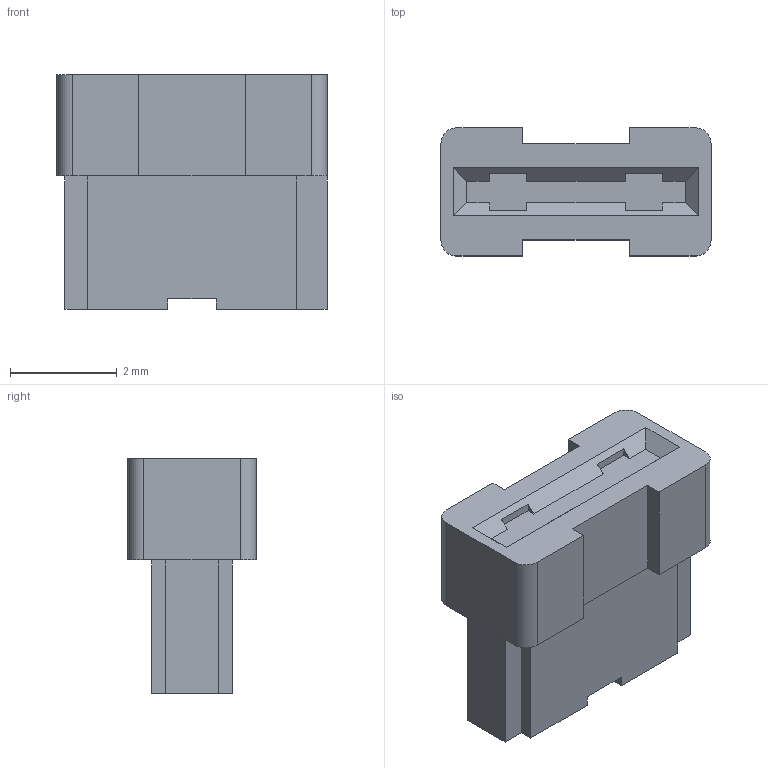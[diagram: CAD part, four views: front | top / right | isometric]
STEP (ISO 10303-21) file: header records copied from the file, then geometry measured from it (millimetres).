
FILE_DESCRIPTION (( 'STEP AP214' ), '1' );
FILE_NAME ('00_9067_020_000_XXX+.STEP', '2019-03-11T02:51:49', ( '' ), ( '' ), 'SwSTEP 2.0', 'SolidWorks 2014', '' );
FILE_SCHEMA (( 'AUTOMOTIVE_DESIGN' ));
Length unit declared in the file: millimetre
Products named in the file (1): 00_9067_020_000_XXX+
Bounding box: 5.06 x 2.4 x 4.4 mm (x, y, z)
Volume: 36.3 mm3; surface area: 86 mm2
Topology: 1 solids, 1 shells, 75 faces, 216 edges, 144 vertices
Faces by surface type: plane 71, cylinder 4
Entity records: 2452 total; most frequent: CARTESIAN_POINT 436, ORIENTED_EDGE 432, DIRECTION 376, EDGE_CURVE 216, LINE 208, VECTOR 208, VERTEX_POINT 144, AXIS2_PLACEMENT_3D 84
